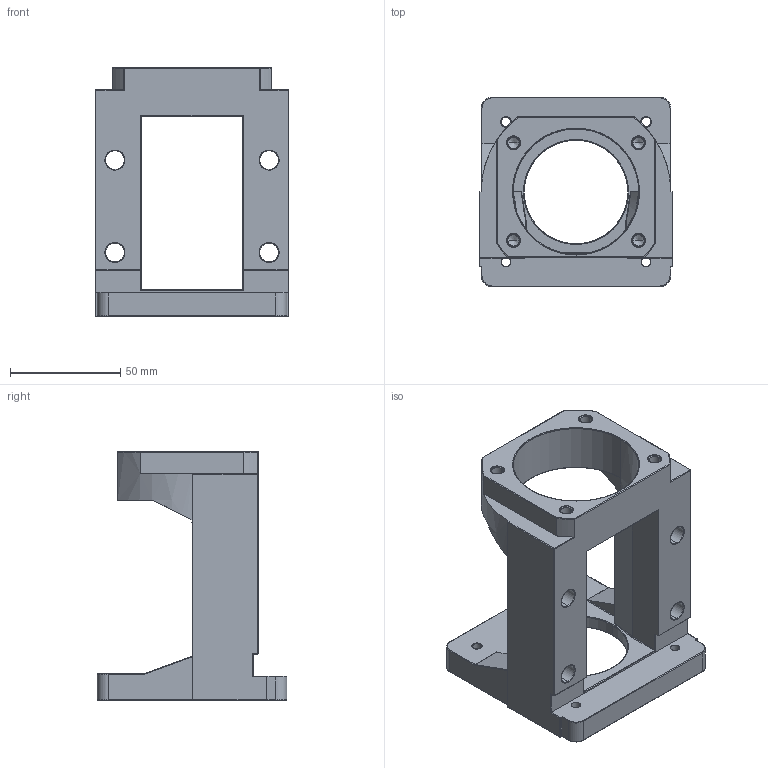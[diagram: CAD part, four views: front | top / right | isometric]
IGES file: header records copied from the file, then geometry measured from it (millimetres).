
Start section: SolidWorks IGES file using analytic representation for surfaces
Bounding box: 88 x 86 x 113 mm (x, y, z)
Surface area: 50772.7 mm2 (no closed solid volume)
Topology: 0 solids, 0 shells, 245 faces, 2702 edges, 2682 vertices
Faces by surface type: revolution 147, bspline 98
